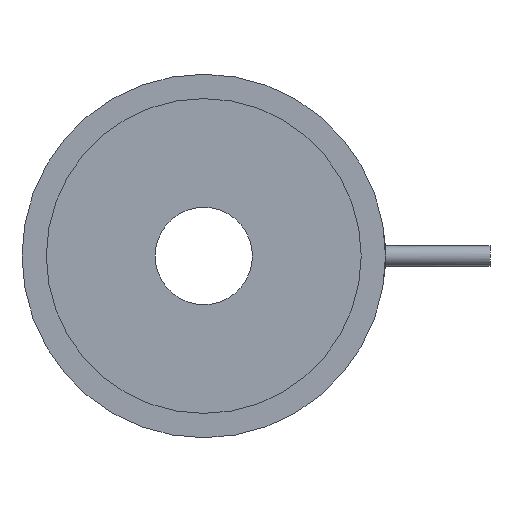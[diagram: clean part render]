
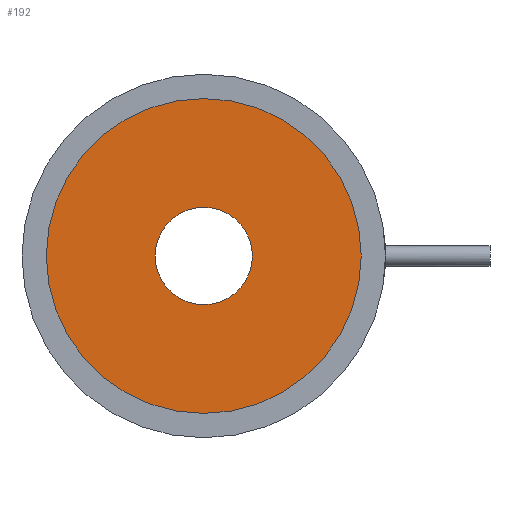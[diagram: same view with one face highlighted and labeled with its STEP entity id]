
A CAD part, front view. The second image highlights one B-rep face of the part: STEP entity #192.
In plain terms, the highlighted planar face has unit normal (0, -1, 0).
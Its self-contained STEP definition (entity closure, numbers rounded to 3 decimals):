
#1 = VERTEX_POINT ( 'NONE', #491 ) ;
#13 = CARTESIAN_POINT ( 'NONE',  ( 0., 1., 3.4 ) ) ;
#68 = CIRCLE ( 'NONE', #105, 3.4 ) ;
#75 = CIRCLE ( 'NONE', #446, 3.4 ) ;
#96 = PLANE ( 'NONE',  #187 ) ;
#105 = AXIS2_PLACEMENT_3D ( 'NONE', #258, #373, #494 ) ;
#109 = VERTEX_POINT ( 'NONE', #441 ) ;
#110 = DIRECTION ( 'NONE',  ( 0., -1., 0. ) ) ;
#161 = CARTESIAN_POINT ( 'NONE',  ( 0., 1., 11. ) ) ;
#165 = DIRECTION ( 'NONE',  ( 0., -1., 0. ) ) ;
#166 = ORIENTED_EDGE ( 'NONE', *, *, #588, .T. ) ;
#168 = EDGE_CURVE ( 'NONE', #758, #1, #75, .T. ) ;
#187 = AXIS2_PLACEMENT_3D ( 'NONE', #458, #280, #699 ) ;
#192 = ADVANCED_FACE ( 'NONE', ( #466, #291 ), #96, .T. ) ;
#199 = CIRCLE ( 'NONE', #224, 11. ) ;
#224 = AXIS2_PLACEMENT_3D ( 'NONE', #747, #110, #347 ) ;
#228 = EDGE_CURVE ( 'NONE', #268, #109, #459, .T. ) ;
#258 = CARTESIAN_POINT ( 'NONE',  ( 0., 1., 0. ) ) ;
#259 = EDGE_CURVE ( 'NONE', #109, #268, #199, .T. ) ;
#265 = EDGE_LOOP ( 'NONE', ( #429, #375 ) ) ;
#268 = VERTEX_POINT ( 'NONE', #161 ) ;
#276 = DIRECTION ( 'NONE',  ( 0., 0., -1. ) ) ;
#280 = DIRECTION ( 'NONE',  ( 0., -1., 0. ) ) ;
#291 = FACE_BOUND ( 'NONE', #609, .T. ) ;
#347 = DIRECTION ( 'NONE',  ( 0., 0., -1. ) ) ;
#373 = DIRECTION ( 'NONE',  ( 0., 1., 0. ) ) ;
#375 = ORIENTED_EDGE ( 'NONE', *, *, #228, .T. ) ;
#405 = DIRECTION ( 'NONE',  ( 0., 1., 0. ) ) ;
#429 = ORIENTED_EDGE ( 'NONE', *, *, #259, .T. ) ;
#441 = CARTESIAN_POINT ( 'NONE',  ( 0., 1., -11. ) ) ;
#446 = AXIS2_PLACEMENT_3D ( 'NONE', #589, #405, #276 ) ;
#458 = CARTESIAN_POINT ( 'NONE',  ( 0., 1., 0. ) ) ;
#459 = CIRCLE ( 'NONE', #658, 11. ) ;
#466 = FACE_OUTER_BOUND ( 'NONE', #265, .T. ) ;
#491 = CARTESIAN_POINT ( 'NONE',  ( 0., 1., -3.4 ) ) ;
#494 = DIRECTION ( 'NONE',  ( 0., 0., -1. ) ) ;
#513 = CARTESIAN_POINT ( 'NONE',  ( 0., 1., 0. ) ) ;
#588 = EDGE_CURVE ( 'NONE', #1, #758, #68, .T. ) ;
#589 = CARTESIAN_POINT ( 'NONE',  ( 0., 1., 0. ) ) ;
#609 = EDGE_LOOP ( 'NONE', ( #748, #166 ) ) ;
#658 = AXIS2_PLACEMENT_3D ( 'NONE', #513, #165, #752 ) ;
#699 = DIRECTION ( 'NONE',  ( 0., 0., -1. ) ) ;
#747 = CARTESIAN_POINT ( 'NONE',  ( 0., 1., 0. ) ) ;
#748 = ORIENTED_EDGE ( 'NONE', *, *, #168, .T. ) ;
#752 = DIRECTION ( 'NONE',  ( 0., 0., -1. ) ) ;
#758 = VERTEX_POINT ( 'NONE', #13 ) ;
